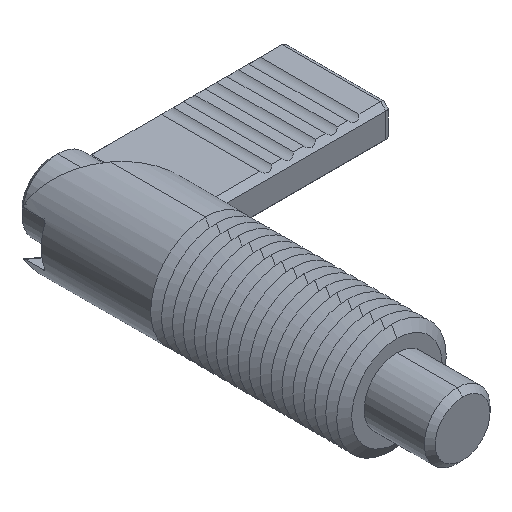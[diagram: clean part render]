
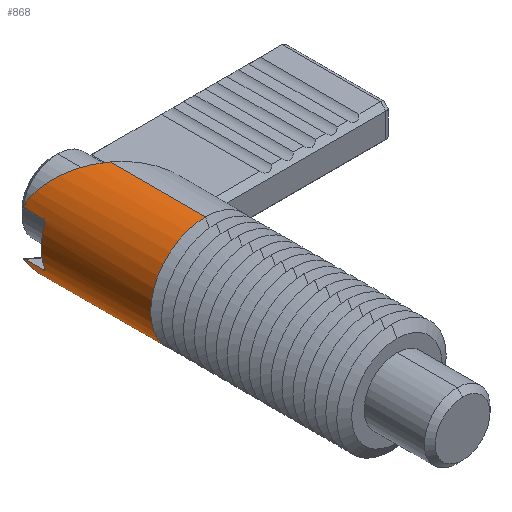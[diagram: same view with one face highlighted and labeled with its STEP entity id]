
A CAD part, isometric view. The second image highlights one B-rep face of the part: STEP entity #868.
In plain terms, the highlighted cylindrical face has radius 5 mm (diameter 10 mm), a partial arc.
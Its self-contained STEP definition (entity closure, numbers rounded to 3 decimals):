
#726 = EDGE_CURVE ( 'NONE', #833, #915, #2594, .T. ) ;
#729 = EDGE_CURVE ( 'NONE', #793, #833, #2590, .T. ) ;
#730 = ORIENTED_EDGE ( 'NONE', *, *, #726, .T. ) ;
#732 = ORIENTED_EDGE ( 'NONE', *, *, #733, .F. ) ;
#733 = EDGE_CURVE ( 'NONE', #813, #825, #2635, .T. ) ;
#734 = ORIENTED_EDGE ( 'NONE', *, *, #3978, .T. ) ;
#736 = ORIENTED_EDGE ( 'NONE', *, *, #747, .T. ) ;
#739 = ORIENTED_EDGE ( 'NONE', *, *, #744, .T. ) ;
#741 = EDGE_CURVE ( 'NONE', #872, #742, #2630, .T. ) ;
#742 = VERTEX_POINT ( 'NONE', #2626 ) ;
#744 = EDGE_CURVE ( 'NONE', #742, #746, #2623, .T. ) ;
#746 = VERTEX_POINT ( 'NONE', #2664 ) ;
#747 = EDGE_CURVE ( 'NONE', #746, #3966, #2661, .T. ) ;
#793 = VERTEX_POINT ( 'NONE', #2717 ) ;
#813 = VERTEX_POINT ( 'NONE', #2736 ) ;
#825 = VERTEX_POINT ( 'NONE', #2817 ) ;
#833 = VERTEX_POINT ( 'NONE', #2798 ) ;
#838 = ORIENTED_EDGE ( 'NONE', *, *, #729, .T. ) ;
#845 = ORIENTED_EDGE ( 'NONE', *, *, #879, .T. ) ;
#854 = EDGE_LOOP ( 'NONE', ( #855, #845, #838, #730, #909, #902, #895, #876, #739, #736, #734, #732 ) ) ;
#855 = ORIENTED_EDGE ( 'NONE', *, *, #3982, .F. ) ;
#868 = ADVANCED_FACE ( 'NONE', ( #2862 ), #2861, .T. ) ;
#872 = VERTEX_POINT ( 'NONE', #2888 ) ;
#876 = ORIENTED_EDGE ( 'NONE', *, *, #741, .T. ) ;
#879 = EDGE_CURVE ( 'NONE', #3981, #793, #2882, .T. ) ;
#882 = EDGE_CURVE ( 'NONE', #897, #872, #2871, .T. ) ;
#895 = ORIENTED_EDGE ( 'NONE', *, *, #882, .T. ) ;
#897 = VERTEX_POINT ( 'NONE', #2952 ) ;
#902 = ORIENTED_EDGE ( 'NONE', *, *, #905, .T. ) ;
#905 = EDGE_CURVE ( 'NONE', #910, #897, #2938, .T. ) ;
#909 = ORIENTED_EDGE ( 'NONE', *, *, #920, .T. ) ;
#910 = VERTEX_POINT ( 'NONE', #2980 ) ;
#915 = VERTEX_POINT ( 'NONE', #2979 ) ;
#920 = EDGE_CURVE ( 'NONE', #915, #910, #2965, .T. ) ;
#2585 = CARTESIAN_POINT ( 'NONE',  ( -4.514, 29.585, 2.151 ) ) ;
#2586 = CARTESIAN_POINT ( 'NONE',  ( -4.49, 29.567, 2.2 ) ) ;
#2590 = B_SPLINE_CURVE_WITH_KNOTS ( 'NONE', 3,
 ( #2586, #2585, #2642, #2641, #2640, #2639 ),
 .UNSPECIFIED., .F., .F.,
 ( 4, 2, 4 ),
 ( 0., 0., 0. ),
 .UNSPECIFIED. ) ;
#2591 = DIRECTION ( 'NONE',  ( 0., -1., 0. ) ) ;
#2592 = VECTOR ( 'NONE', #2591, 1000. ) ;
#2593 = CARTESIAN_POINT ( 'NONE',  ( -4.583, 0., 2. ) ) ;
#2594 = LINE ( 'NONE', #2593, #2592 ) ;
#2613 = CARTESIAN_POINT ( 'NONE',  ( -4.49, 29.567, -2.2 ) ) ;
#2614 = CARTESIAN_POINT ( 'NONE',  ( -4.502, 29.576, -2.176 ) ) ;
#2615 = CARTESIAN_POINT ( 'NONE',  ( -4.514, 29.58, -2.15 ) ) ;
#2616 = CARTESIAN_POINT ( 'NONE',  ( -4.538, 29.572, -2.099 ) ) ;
#2617 = CARTESIAN_POINT ( 'NONE',  ( -4.55, 29.56, -2.074 ) ) ;
#2618 = CARTESIAN_POINT ( 'NONE',  ( -4.576, 29.503, -2.016 ) ) ;
#2619 = CARTESIAN_POINT ( 'NONE',  ( -4.583, 29.444, -2. ) ) ;
#2620 = CARTESIAN_POINT ( 'NONE',  ( -4.583, 29.387, -2. ) ) ;
#2623 = B_SPLINE_CURVE_WITH_KNOTS ( 'NONE', 3,
 ( #2620, #2619, #2618, #2617, #2616, #2615, #2614, #2613 ),
 .UNSPECIFIED., .F., .F.,
 ( 4, 2, 2, 4 ),
 ( 0., 0., 0., 0. ),
 .UNSPECIFIED. ) ;
#2626 = CARTESIAN_POINT ( 'NONE',  ( -4.583, 29.387, -2. ) ) ;
#2627 = DIRECTION ( 'NONE',  ( 0., 1., 0. ) ) ;
#2628 = VECTOR ( 'NONE', #2627, 1000. ) ;
#2629 = CARTESIAN_POINT ( 'NONE',  ( -4.583, 0., -2. ) ) ;
#2630 = LINE ( 'NONE', #2629, #2628 ) ;
#2631 = DIRECTION ( 'NONE',  ( 0., 0., -1. ) ) ;
#2632 = DIRECTION ( 'NONE',  ( 0., -1., 0. ) ) ;
#2633 = CARTESIAN_POINT ( 'NONE',  ( 0., 17.5, 0. ) ) ;
#2634 = AXIS2_PLACEMENT_3D ( 'NONE', #2633, #2632, #2631 ) ;
#2635 = CIRCLE ( 'NONE', #2634, 5. ) ;
#2639 = CARTESIAN_POINT ( 'NONE',  ( -4.583, 29.387, 2. ) ) ;
#2640 = CARTESIAN_POINT ( 'NONE',  ( -4.583, 29.444, 2. ) ) ;
#2641 = CARTESIAN_POINT ( 'NONE',  ( -4.576, 29.503, 2.016 ) ) ;
#2642 = CARTESIAN_POINT ( 'NONE',  ( -4.54, 29.579, 2.094 ) ) ;
#2657 = CARTESIAN_POINT ( 'NONE',  ( 0., 26.2, -5. ) ) ;
#2658 = CARTESIAN_POINT ( 'NONE',  ( -1.962, 27.671, -5. ) ) ;
#2659 = CARTESIAN_POINT ( 'NONE',  ( -3.627, 28.92, -3.962 ) ) ;
#2660 = CARTESIAN_POINT ( 'NONE',  ( -4.49, 29.567, -2.2 ) ) ;
#2661 =( BOUNDED_CURVE ( )  B_SPLINE_CURVE ( 3, ( #2660, #2659, #2658, #2657 ),
 .UNSPECIFIED., .F., .T. ) 
 B_SPLINE_CURVE_WITH_KNOTS ( ( 4, 4 ),
 ( 3.597, 4.712 ),
 .UNSPECIFIED. ) 
 CURVE ( )  GEOMETRIC_REPRESENTATION_ITEM ( )  RATIONAL_B_SPLINE_CURVE ( ( 1., 0.899, 0.899, 1. ) ) 
 REPRESENTATION_ITEM ( '' )  );
#2664 = CARTESIAN_POINT ( 'NONE',  ( -4.49, 29.567, -2.2 ) ) ;
#2717 = CARTESIAN_POINT ( 'NONE',  ( -4.49, 29.567, 2.2 ) ) ;
#2736 = CARTESIAN_POINT ( 'NONE',  ( 0., 17.5, 5. ) ) ;
#2798 = CARTESIAN_POINT ( 'NONE',  ( -4.583, 29.387, 2. ) ) ;
#2817 = CARTESIAN_POINT ( 'NONE',  ( 0., 17.5, -5. ) ) ;
#2851 = DIRECTION ( 'NONE',  ( 0., 0., -1. ) ) ;
#2852 = DIRECTION ( 'NONE',  ( 0., -1., 0. ) ) ;
#2854 = CARTESIAN_POINT ( 'NONE',  ( 0., 0., 0. ) ) ;
#2855 = AXIS2_PLACEMENT_3D ( 'NONE', #2854, #2852, #2851 ) ;
#2861 = CYLINDRICAL_SURFACE ( 'NONE', #2855, 5. ) ;
#2862 = FACE_OUTER_BOUND ( 'NONE', #854, .T. ) ;
#2871 = B_SPLINE_CURVE_WITH_KNOTS ( 'NONE', 3,
 ( #2922, #2921, #2920, #2919, #2918, #2917 ),
 .UNSPECIFIED., .F., .F.,
 ( 4, 2, 4 ),
 ( 0., 0., 0. ),
 .UNSPECIFIED. ) ;
#2878 = CARTESIAN_POINT ( 'NONE',  ( -4.49, 29.567, 2.2 ) ) ;
#2879 = CARTESIAN_POINT ( 'NONE',  ( -3.627, 28.92, 3.962 ) ) ;
#2880 = CARTESIAN_POINT ( 'NONE',  ( -1.962, 27.671, 5. ) ) ;
#2881 = CARTESIAN_POINT ( 'NONE',  ( 0., 26.2, 5. ) ) ;
#2882 =( BOUNDED_CURVE ( )  B_SPLINE_CURVE ( 3, ( #2881, #2880, #2879, #2878 ),
 .UNSPECIFIED., .F., .T. ) 
 B_SPLINE_CURVE_WITH_KNOTS ( ( 4, 4 ),
 ( 1.571, 2.686 ),
 .UNSPECIFIED. ) 
 CURVE ( )  GEOMETRIC_REPRESENTATION_ITEM ( )  RATIONAL_B_SPLINE_CURVE ( ( 1., 0.899, 0.899, 1. ) ) 
 REPRESENTATION_ITEM ( '' )  );
#2888 = CARTESIAN_POINT ( 'NONE',  ( -4.583, 27.7, -2. ) ) ;
#2917 = CARTESIAN_POINT ( 'NONE',  ( -4.583, 27.7, -2. ) ) ;
#2918 = CARTESIAN_POINT ( 'NONE',  ( -4.583, 27.645, -2. ) ) ;
#2919 = CARTESIAN_POINT ( 'NONE',  ( -4.593, 27.592, -1.976 ) ) ;
#2920 = CARTESIAN_POINT ( 'NONE',  ( -4.625, 27.52, -1.901 ) ) ;
#2921 = CARTESIAN_POINT ( 'NONE',  ( -4.645, 27.5, -1.851 ) ) ;
#2922 = CARTESIAN_POINT ( 'NONE',  ( -4.665, 27.5, -1.8 ) ) ;
#2934 = DIRECTION ( 'NONE',  ( 0., 0., -1. ) ) ;
#2935 = DIRECTION ( 'NONE',  ( 0., -1., 0. ) ) ;
#2936 = CARTESIAN_POINT ( 'NONE',  ( 0., 27.5, 0. ) ) ;
#2937 = AXIS2_PLACEMENT_3D ( 'NONE', #2936, #2935, #2934 ) ;
#2938 = CIRCLE ( 'NONE', #2937, 5. ) ;
#2952 = CARTESIAN_POINT ( 'NONE',  ( -4.665, 27.5, -1.8 ) ) ;
#2957 = CARTESIAN_POINT ( 'NONE',  ( -4.665, 27.5, 1.8 ) ) ;
#2958 = CARTESIAN_POINT ( 'NONE',  ( -4.645, 27.5, 1.851 ) ) ;
#2959 = CARTESIAN_POINT ( 'NONE',  ( -4.624, 27.52, 1.902 ) ) ;
#2960 = CARTESIAN_POINT ( 'NONE',  ( -4.593, 27.592, 1.976 ) ) ;
#2961 = CARTESIAN_POINT ( 'NONE',  ( -4.583, 27.645, 2. ) ) ;
#2962 = CARTESIAN_POINT ( 'NONE',  ( -4.583, 27.7, 2. ) ) ;
#2965 = B_SPLINE_CURVE_WITH_KNOTS ( 'NONE', 3,
 ( #2962, #2961, #2960, #2959, #2958, #2957 ),
 .UNSPECIFIED., .F., .F.,
 ( 4, 2, 4 ),
 ( 0., 0., 0. ),
 .UNSPECIFIED. ) ;
#2979 = CARTESIAN_POINT ( 'NONE',  ( -4.583, 27.7, 2. ) ) ;
#2980 = CARTESIAN_POINT ( 'NONE',  ( -4.665, 27.5, 1.8 ) ) ;
#3856 = CARTESIAN_POINT ( 'NONE',  ( 0., 26.2, -5. ) ) ;
#3881 = DIRECTION ( 'NONE',  ( 0., -1., 0. ) ) ;
#3882 = VECTOR ( 'NONE', #3881, 1000. ) ;
#3883 = CARTESIAN_POINT ( 'NONE',  ( 0., 0., 5. ) ) ;
#3884 = LINE ( 'NONE', #3883, #3882 ) ;
#3885 = CARTESIAN_POINT ( 'NONE',  ( 0., 26.2, 5. ) ) ;
#3887 = DIRECTION ( 'NONE',  ( 0., -1., 0. ) ) ;
#3888 = VECTOR ( 'NONE', #3887, 1000. ) ;
#3889 = CARTESIAN_POINT ( 'NONE',  ( 0., 0., -5. ) ) ;
#3890 = LINE ( 'NONE', #3889, #3888 ) ;
#3966 = VERTEX_POINT ( 'NONE', #3856 ) ;
#3978 = EDGE_CURVE ( 'NONE', #3966, #825, #3890, .T. ) ;
#3981 = VERTEX_POINT ( 'NONE', #3885 ) ;
#3982 = EDGE_CURVE ( 'NONE', #3981, #813, #3884, .T. ) ;
